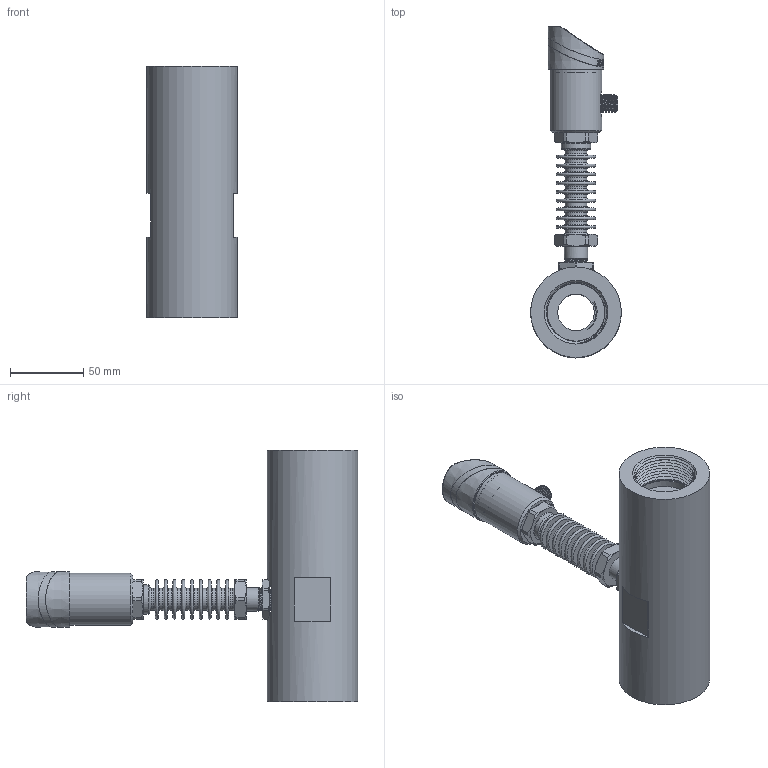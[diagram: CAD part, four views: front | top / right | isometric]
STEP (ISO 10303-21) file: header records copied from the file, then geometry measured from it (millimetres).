
FILE_DESCRIPTION( (''), '2;1');
FILE_NAME( 'QTKE_DN32_female-thread_high-temp.step', '2024-10-15T13:44:28+08:00', (''), (''), '', '', '');
FILE_SCHEMA (('AUTOMOTIVE_DESIGN { 1 0 10303 214 3 1 1 1 }'));
Length unit declared in the file: millimetre
Products named in the file (1): QTKE DN32_female-thread_high-temp
Bounding box: 62 x 227 x 172 mm (x, y, z)
Volume: 429547.4 mm3; surface area: 104400.3 mm2
Topology: 5 solids, 5 shells, 1142 faces, 2957 edges, 1924 vertices
Faces by surface type: plane 545, cylinder 171, extrusion 160, cone 108, bspline 77, torus 60, sphere 21
Full cylindrical faces by diameter (mm): 1.689 x1, 2 x1, 2.7 x6, 3.5 x5, 12 x1, 13 x1, 15 x11, 15.9 x1, 20 x1, 23 x3, 25 x1, 26 x5, 31.7 x1, 32 x1, 34 x1, 34.2 x1, 35.5 x2, 39.5 x2, 62 x1
Entity records: 50166 total; most frequent: CARTESIAN_POINT 19661, ORIENTED_EDGE 5526, DIRECTION 4732, EDGE_CURVE 2763, VERTEX_POINT 1865, AXIS2_PLACEMENT_3D 1582, VECTOR 1568, LINE 1408
